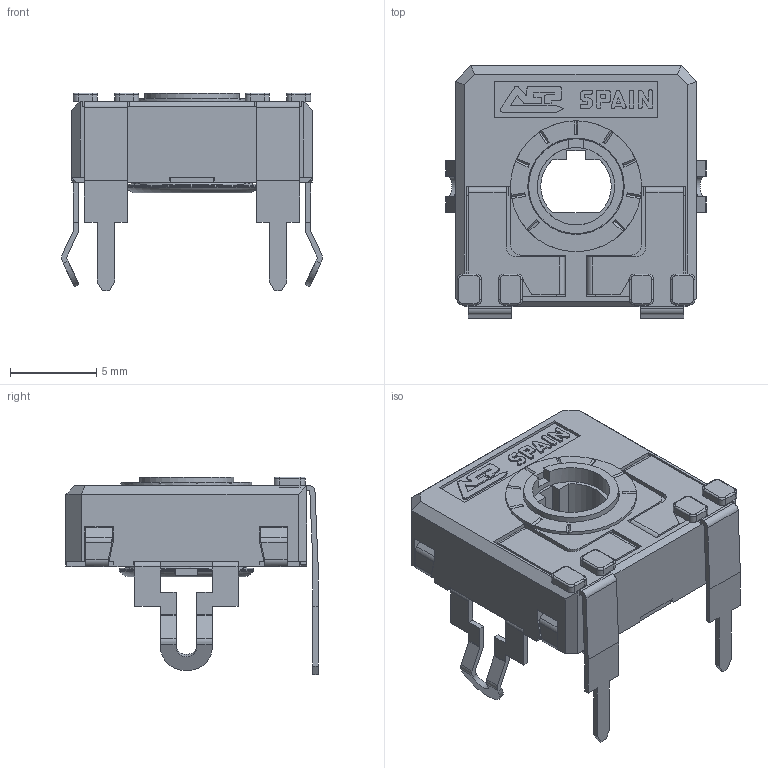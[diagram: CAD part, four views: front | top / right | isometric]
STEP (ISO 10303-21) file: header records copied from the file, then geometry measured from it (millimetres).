
FILE_DESCRIPTION(/* description */ (''),/* implementation_level */ '2;1');
FILE_NAME(/* name */ '\\SERVERACP\intercambio\Ignacio Santa Cecilia\Nueva WEB 2025\CA14 - CE14\CA14TVD7,5.stp',/* time_stamp */ '2025-06-13T11:25:00+02:00',/* author */ ('CEM'),/* organization */ (''),/* preprocessor_version */ 'ST-DEVELOPER v17',/* originating_system */ 'Autodesk Inventor 2018',/* authorisation */ '');
FILE_SCHEMA (('AUTOMOTIVE_DESIGN { 1 0 10303 214 3 1 1 }'));
Length unit declared in the file: millimetre
Products named in the file (1): CARCASA CA14 PGA
Bounding box: 15.16 x 14.65 x 11.5 mm (x, y, z)
Volume: 540.1 mm3; surface area: 1557.6 mm2
Topology: 1 solids, 1 shells, 736 faces, 2093 edges, 1349 vertices
Faces by surface type: plane 538, cylinder 161, torus 23, bspline 8, cone 6
Full cylindrical faces by diameter (mm): 4.5 x1, 5.5 x1, 5.6 x1, 5.752 x1, 6.8 x1, 7.6 x1
Entity records: 24193 total; most frequent: CARTESIAN_POINT 4476, ORIENTED_EDGE 4186, DIRECTION 3917, EDGE_CURVE 2093, LINE 1637, VECTOR 1637, VERTEX_POINT 1349, AXIS2_PLACEMENT_3D 1140
